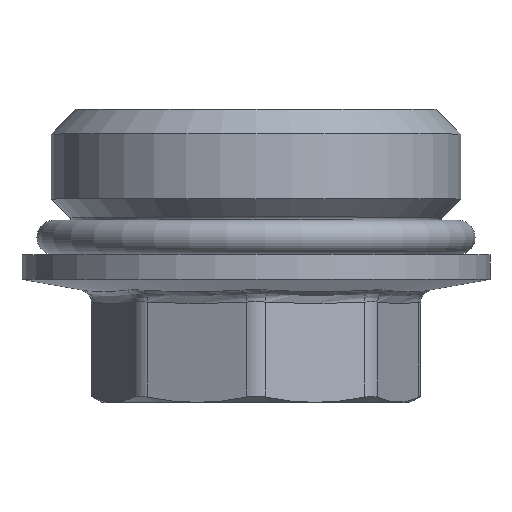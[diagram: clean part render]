
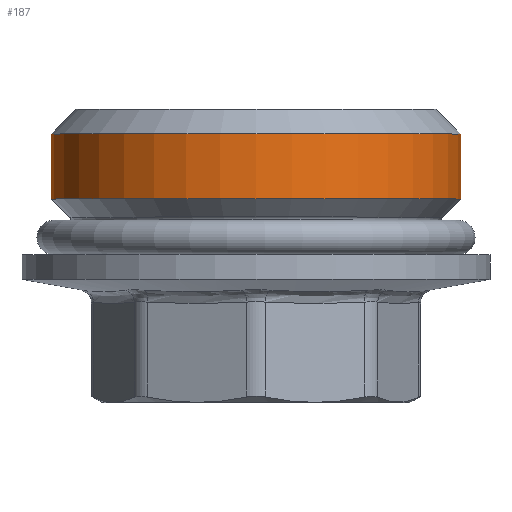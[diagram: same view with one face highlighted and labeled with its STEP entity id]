
A CAD part, top view. The second image highlights one B-rep face of the part: STEP entity #187.
In plain terms, the highlighted cylindrical face has radius 16.625 mm (diameter 33.249 mm), a full revolution.
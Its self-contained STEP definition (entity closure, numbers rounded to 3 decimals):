
#187=ADVANCED_FACE('',(#359,#361),#363,.T.);
#359=FACE_OUTER_BOUND('',#360,.T.);
#360=EDGE_LOOP('',(#1639));
#361=FACE_OUTER_BOUND('',#362,.T.);
#362=EDGE_LOOP('',(#1640));
#363=CYLINDRICAL_SURFACE('',#364,16.625);
#364=AXIS2_PLACEMENT_3D('',#365,#366,#367);
#365=CARTESIAN_POINT('',(0.,0.,0.));
#366=DIRECTION('',(0.,1.,0.));
#367=DIRECTION('',(-1.,0.,0.));
#1639=ORIENTED_EDGE('',*,*,#1846,.F.);
#1640=ORIENTED_EDGE('',*,*,#1854,.T.);
#1846=EDGE_CURVE('',#1963,#1963,#1964,.T.);
#1854=EDGE_CURVE('',#1979,#1979,#1980,.F.);
#1963=VERTEX_POINT('',#2165);
#1964=CIRCLE('',#2166,16.625);
#1979=VERTEX_POINT('',#2205);
#1980=CIRCLE('',#2206,16.625);
#2165=CARTESIAN_POINT('',(-16.625,11.8,0.));
#2166=AXIS2_PLACEMENT_3D('',#2167,#2168,#2169);
#2167=CARTESIAN_POINT('',(0.,11.8,0.));
#2168=DIRECTION('',(0.,1.,0.));
#2169=DIRECTION('',(-1.,0.,0.));
#2205=CARTESIAN_POINT('',(-16.625,6.525,0.));
#2206=AXIS2_PLACEMENT_3D('',#2207,#2208,#2209);
#2207=CARTESIAN_POINT('',(0.,6.525,0.));
#2208=DIRECTION('',(0.,-1.,0.));
#2209=DIRECTION('',(-1.,0.,0.));
